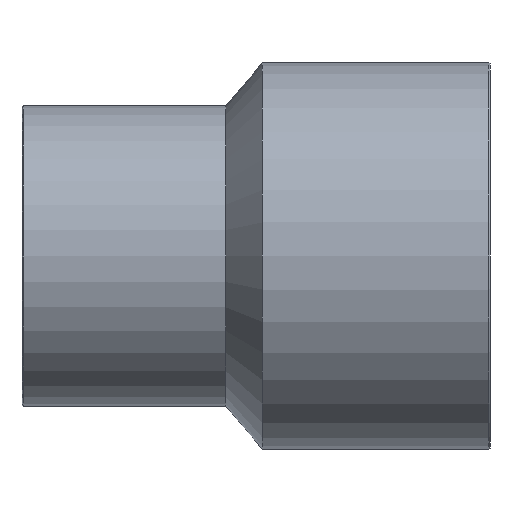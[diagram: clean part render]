
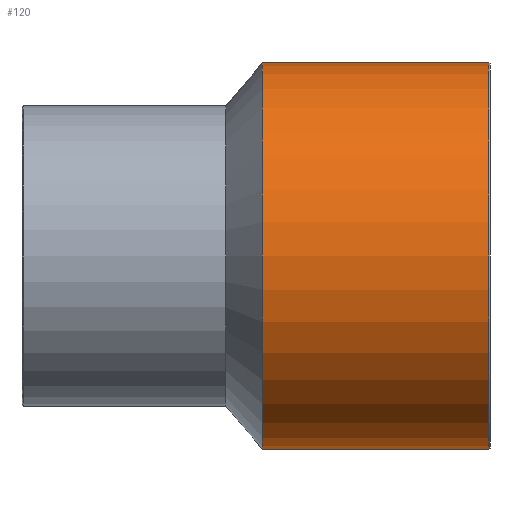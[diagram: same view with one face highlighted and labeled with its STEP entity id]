
A CAD part, front view. The second image highlights one B-rep face of the part: STEP entity #120.
In plain terms, the highlighted cylindrical face has radius 90 mm (diameter 180 mm), a full revolution.
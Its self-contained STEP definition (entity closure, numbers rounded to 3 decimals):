
#26=ORIENTED_EDGE('',*,*,#46,.T.);
#27=ORIENTED_EDGE('',*,*,#47,.F.);
#46=EDGE_CURVE('',#56,#56,#66,.T.);
#47=EDGE_CURVE('',#57,#57,#67,.T.);
#56=VERTEX_POINT('',#208);
#57=VERTEX_POINT('',#210);
#66=CIRCLE('',#144,90.);
#67=CIRCLE('',#145,90.);
#76=EDGE_LOOP('',(#26));
#77=EDGE_LOOP('',(#27));
#96=FACE_BOUND('',#76,.T.);
#97=FACE_BOUND('',#77,.T.);
#116=CYLINDRICAL_SURFACE('',#143,90.);
#120=ADVANCED_FACE('',(#96,#97),#116,.T.);
#143=AXIS2_PLACEMENT_3D('',#206,#165,#166);
#144=AXIS2_PLACEMENT_3D('',#207,#167,#168);
#145=AXIS2_PLACEMENT_3D('',#209,#169,#170);
#165=DIRECTION('',(-1.,0.,0.));
#166=DIRECTION('',(0.,0.,1.));
#167=DIRECTION('',(-1.,0.,0.));
#168=DIRECTION('',(0.,0.,1.));
#169=DIRECTION('',(-1.,0.,0.));
#170=DIRECTION('',(0.,0.,1.));
#206=CARTESIAN_POINT('',(-60.,0.,0.));
#207=CARTESIAN_POINT('',(114.,0.,0.));
#208=CARTESIAN_POINT('',(114.,0.,90.));
#209=CARTESIAN_POINT('',(8.5,0.,0.));
#210=CARTESIAN_POINT('',(8.5,0.,90.));
